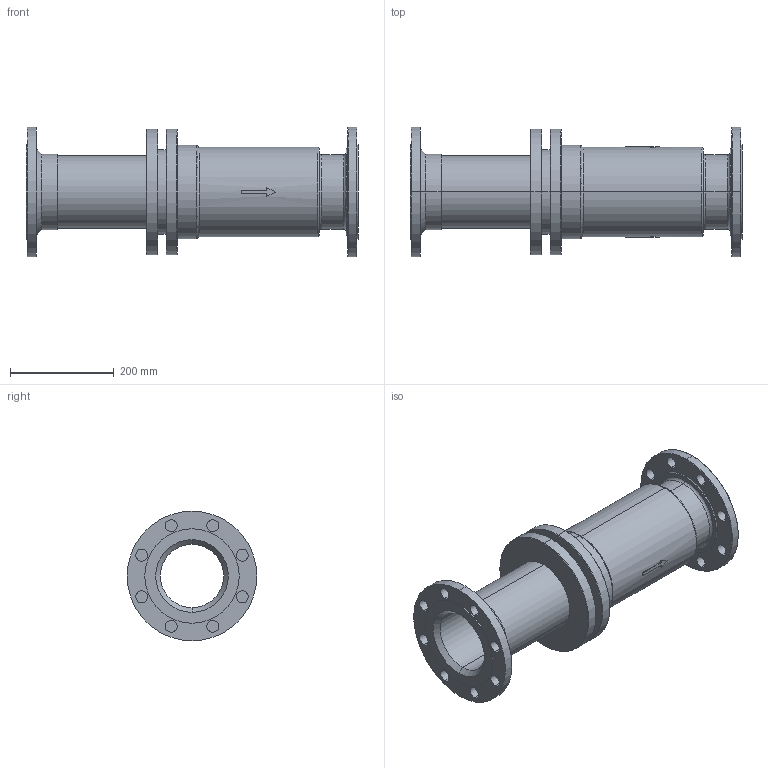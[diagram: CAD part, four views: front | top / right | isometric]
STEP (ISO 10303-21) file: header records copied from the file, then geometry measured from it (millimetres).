
FILE_DESCRIPTION( (''), '2;1');
FILE_NAME ('PC1027.9516.ES-10-200 125A_30059.stp','2025-07-30T14:55:09',(''),(''),'spGate 20.6.3 (****-****-****-****)','','');
FILE_SCHEMA (('AUTOMOTIVE_DESIGN'));
Length unit declared in the file: millimetre
Bounding box: 640 x 250 x 250 mm (x, y, z)
Volume: 7153813.6 mm3; surface area: 836027.8 mm2
Topology: 1 solids, 1 shells, 122 faces, 290 edges, 184 vertices
Faces by surface type: cylinder 62, plane 30, bspline 30
Entity records: 6241 total; most frequent: CARTESIAN_POINT 1162, ORIENTED_EDGE 580, DIRECTION 540, COLOUR_RGB 413, PRESENTATION_STYLE_ASSIGNMENT 413, STYLED_ITEM 413, EDGE_CURVE 290, DRAUGHTING_PRE_DEFINED_CURVE_FONT 290
